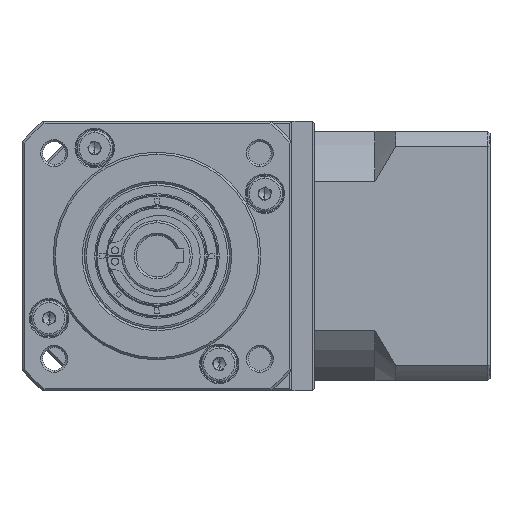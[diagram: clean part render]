
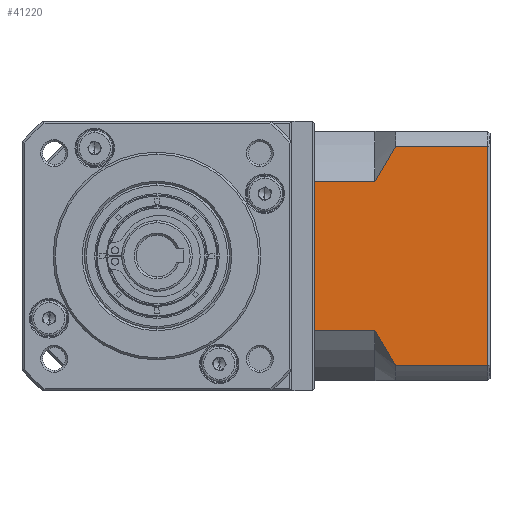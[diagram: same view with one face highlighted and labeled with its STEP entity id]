
A CAD part, left-side view. The second image highlights one B-rep face of the part: STEP entity #41220.
In plain terms, the highlighted planar face has unit normal (-1, 0, 0).
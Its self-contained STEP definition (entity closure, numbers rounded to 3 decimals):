
#449 = CARTESIAN_POINT ( 'NONE',  ( -9.184, -50.78, -109.606 ) ) ;
#1970 = EDGE_CURVE ( 'NONE', #17305, #95390, #142956, .T. ) ;
#2893 = PLANE ( 'NONE',  #107511 ) ;
#3978 = VERTEX_POINT ( 'NONE', #86853 ) ;
#5577 = EDGE_CURVE ( 'NONE', #17305, #141813, #128937, .T. ) ;
#5700 = CARTESIAN_POINT ( 'NONE',  ( -9.184, -55.78, -101.176 ) ) ;
#8926 = VECTOR ( 'NONE', #115387, 1000. ) ;
#12271 = VERTEX_POINT ( 'NONE', #155363 ) ;
#15181 = VECTOR ( 'NONE', #36941, 1000. ) ;
#16390 = CARTESIAN_POINT ( 'NONE',  ( -9.184, -78.48, -157.634 ) ) ;
#17305 = VERTEX_POINT ( 'NONE', #46200 ) ;
#18088 = CARTESIAN_POINT ( 'NONE',  ( -9.184, -51.528, -108.154 ) ) ;
#23827 = CARTESIAN_POINT ( 'NONE',  ( -9.184, -50.78, -109.606 ) ) ;
#24441 = CARTESIAN_POINT ( 'NONE',  ( -9.184, -36.28, -157.634 ) ) ;
#24723 = LINE ( 'NONE', #57026, #90617 ) ;
#27941 = VERTEX_POINT ( 'NONE', #158868 ) ;
#28761 = CARTESIAN_POINT ( 'NONE',  ( -9.184, -50.78, -145.661 ) ) ;
#28819 = DIRECTION ( 'NONE',  ( 0., 1., 0. ) ) ;
#33615 = EDGE_CURVE ( 'NONE', #38877, #141813, #35095, .T. ) ;
#35095 = B_SPLINE_CURVE_WITH_KNOTS ( 'NONE', 3,
 ( #5700, #42506, #91728, #92245, #18088, #104737 ),
 .UNSPECIFIED., .F., .F.,
 ( 4, 2, 4 ),
 ( 0.052, 0.057, 0.062 ),
 .UNSPECIFIED. ) ;
#35202 = CARTESIAN_POINT ( 'NONE',  ( -9.184, -50.78, -145.661 ) ) ;
#36320 = ORIENTED_EDGE ( 'NONE', *, *, #51626, .F. ) ;
#36941 = DIRECTION ( 'NONE',  ( 0., 0., -1. ) ) ;
#38672 = EDGE_LOOP ( 'NONE', ( #121579, #62075, #36320, #97772, #150270, #50642, #52364, #139569 ) ) ;
#38877 = VERTEX_POINT ( 'NONE', #87979 ) ;
#41220 = ADVANCED_FACE ( 'NONE', ( #76747 ), #2893, .F. ) ;
#42506 = CARTESIAN_POINT ( 'NONE',  ( -9.184, -54.88, -102.536 ) ) ;
#43255 = CARTESIAN_POINT ( 'NONE',  ( -9.184, -50.78, -101.176 ) ) ;
#45967 = DIRECTION ( 'NONE',  ( 0., 1., 0. ) ) ;
#46200 = CARTESIAN_POINT ( 'NONE',  ( -9.184, -36.28, -109.606 ) ) ;
#50642 = ORIENTED_EDGE ( 'NONE', *, *, #1970, .T. ) ;
#50724 = VECTOR ( 'NONE', #45967, 1000. ) ;
#51626 = EDGE_CURVE ( 'NONE', #38877, #3978, #55633, .T. ) ;
#52364 = ORIENTED_EDGE ( 'NONE', *, *, #102336, .F. ) ;
#53680 = CARTESIAN_POINT ( 'NONE',  ( -9.184, -54.004, -151.349 ) ) ;
#54265 = B_SPLINE_CURVE_WITH_KNOTS ( 'NONE', 3,
 ( #28761, #151571, #127866, #53680, #140291, #66163 ),
 .UNSPECIFIED., .F., .F.,
 ( 4, 2, 4 ),
 ( 0.1, 0.104, 0.109 ),
 .UNSPECIFIED. ) ;
#55633 = LINE ( 'NONE', #43255, #88600 ) ;
#55647 = DIRECTION ( 'NONE',  ( 0., -1., 0. ) ) ;
#57026 = CARTESIAN_POINT ( 'NONE',  ( -9.184, -77.98, -157.634 ) ) ;
#62075 = ORIENTED_EDGE ( 'NONE', *, *, #80028, .T. ) ;
#63091 = VECTOR ( 'NONE', #98020, 1000. ) ;
#66163 = CARTESIAN_POINT ( 'NONE',  ( -9.184, -55.78, -154.091 ) ) ;
#73895 = EDGE_CURVE ( 'NONE', #143305, #12271, #54265, .T. ) ;
#74507 = EDGE_CURVE ( 'NONE', #27941, #12271, #83615, .T. ) ;
#76067 = CARTESIAN_POINT ( 'NONE',  ( -9.184, -36.28, -145.661 ) ) ;
#76747 = FACE_OUTER_BOUND ( 'NONE', #38672, .T. ) ;
#77514 = CARTESIAN_POINT ( 'NONE',  ( -9.184, -50.78, -145.661 ) ) ;
#80028 = EDGE_CURVE ( 'NONE', #27941, #3978, #24723, .T. ) ;
#83615 = LINE ( 'NONE', #118444, #50724 ) ;
#86853 = CARTESIAN_POINT ( 'NONE',  ( -9.184, -77.98, -101.176 ) ) ;
#87979 = CARTESIAN_POINT ( 'NONE',  ( -9.184, -55.78, -101.176 ) ) ;
#88600 = VECTOR ( 'NONE', #55647, 1000. ) ;
#90617 = VECTOR ( 'NONE', #143632, 1000. ) ;
#91728 = CARTESIAN_POINT ( 'NONE',  ( -9.184, -54.007, -103.915 ) ) ;
#92245 = CARTESIAN_POINT ( 'NONE',  ( -9.184, -52.331, -106.722 ) ) ;
#95390 = VERTEX_POINT ( 'NONE', #76067 ) ;
#97772 = ORIENTED_EDGE ( 'NONE', *, *, #33615, .T. ) ;
#98020 = DIRECTION ( 'NONE',  ( 0., -1., 0. ) ) ;
#102336 = EDGE_CURVE ( 'NONE', #143305, #95390, #140615, .T. ) ;
#103012 = DIRECTION ( 'NONE',  ( 1., 0., 0. ) ) ;
#104737 = CARTESIAN_POINT ( 'NONE',  ( -9.184, -50.78, -109.606 ) ) ;
#107511 = AXIS2_PLACEMENT_3D ( 'NONE', #16390, #103012, #28819 ) ;
#115387 = DIRECTION ( 'NONE',  ( 0., 1., 0. ) ) ;
#118444 = CARTESIAN_POINT ( 'NONE',  ( -9.184, -50.78, -154.091 ) ) ;
#121579 = ORIENTED_EDGE ( 'NONE', *, *, #74507, .F. ) ;
#127866 = CARTESIAN_POINT ( 'NONE',  ( -9.184, -52.33, -148.543 ) ) ;
#128937 = LINE ( 'NONE', #23827, #63091 ) ;
#139569 = ORIENTED_EDGE ( 'NONE', *, *, #73895, .T. ) ;
#140291 = CARTESIAN_POINT ( 'NONE',  ( -9.184, -54.878, -152.728 ) ) ;
#140615 = LINE ( 'NONE', #77514, #8926 ) ;
#141813 = VERTEX_POINT ( 'NONE', #449 ) ;
#142956 = LINE ( 'NONE', #24441, #15181 ) ;
#143305 = VERTEX_POINT ( 'NONE', #35202 ) ;
#143632 = DIRECTION ( 'NONE',  ( 0., 0., 1. ) ) ;
#150270 = ORIENTED_EDGE ( 'NONE', *, *, #5577, .F. ) ;
#151571 = CARTESIAN_POINT ( 'NONE',  ( -9.184, -51.53, -147.118 ) ) ;
#155363 = CARTESIAN_POINT ( 'NONE',  ( -9.184, -55.78, -154.091 ) ) ;
#158868 = CARTESIAN_POINT ( 'NONE',  ( -9.184, -77.98, -154.091 ) ) ;
